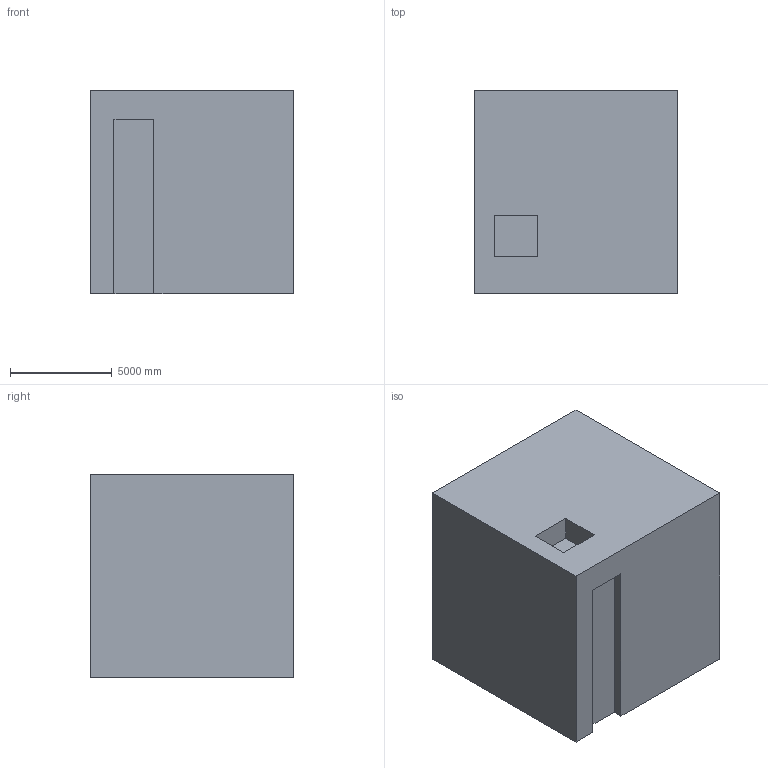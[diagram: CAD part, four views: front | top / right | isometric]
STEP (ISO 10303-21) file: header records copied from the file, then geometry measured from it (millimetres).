
FILE_DESCRIPTION (( 'STEP AP203' ), '1' );
FILE_NAME ('111.STEP', '2022-09-06T13:17:45', ( 'user' ), ( '' ), 'SwSTEP 2.0', 'SolidWorks 2021', '' );
FILE_SCHEMA (( 'CONFIG_CONTROL_DESIGN' ));
Length unit declared in the file: centimetre
Products named in the file (1): 111
Bounding box: 10000 x 10000 x 10000 mm (x, y, z)
Volume: 986970676127.2 mm3; surface area: 617945892.9 mm2
Topology: 1 solids, 1 shells, 15 faces, 36 edges, 24 vertices
Faces by surface type: plane 15
Entity records: 507 total; most frequent: CARTESIAN_POINT 76, ORIENTED_EDGE 72, DIRECTION 68, VECTOR 36, LINE 36, EDGE_CURVE 36, VERTEX_POINT 24, AXIS2_PLACEMENT_3D 16
